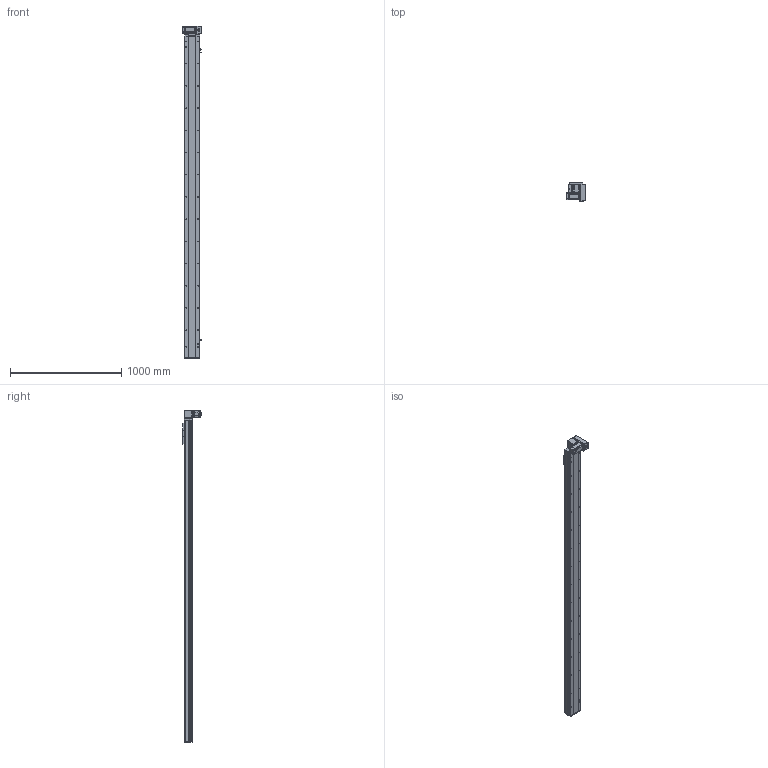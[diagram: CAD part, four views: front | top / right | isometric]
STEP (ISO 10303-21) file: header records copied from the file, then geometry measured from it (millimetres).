
FILE_DESCRIPTION (( 'STEP AP214' ), '1' );
FILE_NAME ('TPE14-L40-2600-RD-T40-C4.STEP', '2023-04-13T03:20:18', ( '' ), ( '' ), 'SwSTEP 2.0', 'SolidWorks 2020', '' );
FILE_SCHEMA (( 'AUTOMOTIVE_DESIGN' ));
Length unit declared in the file: millimetre
Products named in the file (10): 葩璃 TPE14 賑雄殤^TPE14-L40-RD-T40-C4; 葩璃 詩湍75^TPE14-L40-RD-T40-C4; 葩璃 侂狟400W^TPE14-L40-RD-T40-C4; 葩璃 TPE14-L-007 々湍釱MZ-169x88^TPE14-L40-RD-T40-C4_YCB14; 葩璃 TPE14-L-002 耜裔ZTMZ-135-04^TPE14-L40-RD-T40-C4; TPE14-L40-2600-RD-T40-C4; hexagon head bolts-full thread gb_GB_FASTENER_BOLT_STBAB A M5X16-N; 葩璃 TPE14-L-001 菁釱MZ-135-01^TPE14-L40-RD-T40-C4; 葩璃 TPT14-L-009 萇儂啣^TPE14-L40-RD-T40-C4_400W; 葩璃 pm-t65-672^TPE14-L40-RD-T40-C4
Assembly tree (12 placements, depth 2):
  TPE14-L40-2600-RD-T40-C4
    葩璃 TPE14-L-001 菁釱MZ-135-01^TPE14-L40-RD-T40-C4
    葩璃 TPE14-L-002 耜裔ZTMZ-135-04^TPE14-L40-RD-T40-C4  x2
    葩璃 詩湍75^TPE14-L40-RD-T40-C4
    葩璃 TPE14-L-007 々湍釱MZ-169x88^TPE14-L40-RD-T40-C4_YCB14
    葩璃 TPT14-L-009 萇儂啣^TPE14-L40-RD-T40-C4_400W
    葩璃 TPE14 賑雄殤^TPE14-L40-RD-T40-C4
    葩璃 pm-t65-672^TPE14-L40-RD-T40-C4  x3
    葩璃 侂狟400W^TPE14-L40-RD-T40-C4
    hexagon head bolts-full thread gb_GB_FASTENER_BOLT_STBAB A M5X16-N
Bounding box: 172.5 x 171.45 x 2990.5 mm (x, y, z)
Volume: 14763835.3 mm3; surface area: 2762723.5 mm2
Topology: 23 solids, 23 shells, 1476 faces, 3827 edges, 2410 vertices
Faces by surface type: plane 823, cylinder 453, cone 166, bspline 34
Entity records: 39611 total; most frequent: CARTESIAN_POINT 7626, DIRECTION 6328, ORIENTED_EDGE 6082, EDGE_CURVE 3041, AXIS2_PLACEMENT_3D 2166, VECTOR 1996, LINE 1996, VERTEX_POINT 1958
